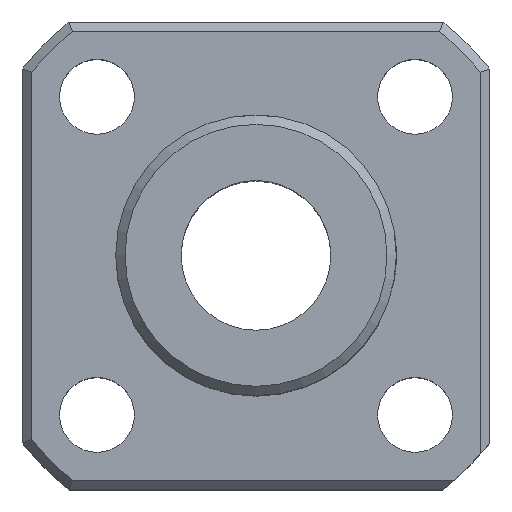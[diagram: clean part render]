
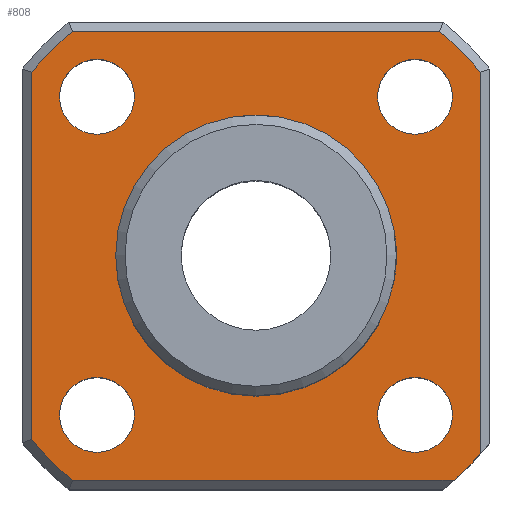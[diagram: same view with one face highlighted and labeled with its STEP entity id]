
A CAD part, top view. The second image highlights one B-rep face of the part: STEP entity #808.
In plain terms, the highlighted planar face has unit normal (0, 0, 1).
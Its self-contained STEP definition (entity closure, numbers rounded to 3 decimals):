
#531=CARTESIAN_POINT('',(10.583,-12.,8.0));
#532=VERTEX_POINT('',#531);
#540=CARTESIAN_POINT('',(-9.811,-12.,8.0));
#541=VERTEX_POINT('',#540);
#542=CARTESIAN_POINT('',(10.583,-12.,8.0));
#543=DIRECTION('',(-1.0,0.0,0.0));
#544=VECTOR('',#543,20.394);
#545=LINE('',#542,#544);
#546=EDGE_CURVE('',#532,#541,#545,.T.);
#571=CARTESIAN_POINT('',(-12.,-9.811,8.0));
#572=VERTEX_POINT('',#571);
#573=CARTESIAN_POINT('',(0.0,0.0,8.0));
#574=DIRECTION('',(0.0,0.0,-1.0));
#575=DIRECTION('',(-1.0,0.0,0.0));
#576=AXIS2_PLACEMENT_3D('',#573,#574,#575);
#577=CIRCLE('',#576,15.5);
#578=EDGE_CURVE('',#541,#572,#577,.T.);
#603=CARTESIAN_POINT('',(-12.,9.811,8.0));
#604=VERTEX_POINT('',#603);
#605=CARTESIAN_POINT('',(-12.,-9.811,8.0));
#606=DIRECTION('',(0.0,1.0,0.0));
#607=VECTOR('',#606,19.621);
#608=LINE('',#605,#607);
#609=EDGE_CURVE('',#572,#604,#608,.T.);
#628=CARTESIAN_POINT('',(-9.811,12.,8.0));
#629=VERTEX_POINT('',#628);
#630=CARTESIAN_POINT('',(0.0,0.0,8.0));
#631=DIRECTION('',(0.0,0.0,-1.0));
#632=DIRECTION('',(-1.0,0.0,0.0));
#633=AXIS2_PLACEMENT_3D('',#630,#631,#632);
#634=CIRCLE('',#633,15.5);
#635=EDGE_CURVE('',#604,#629,#634,.T.);
#654=CARTESIAN_POINT('',(9.811,12.,8.0));
#655=VERTEX_POINT('',#654);
#656=CARTESIAN_POINT('',(-9.811,12.,8.0));
#657=DIRECTION('',(1.0,0.0,0.0));
#658=VECTOR('',#657,19.621);
#659=LINE('',#656,#658);
#660=EDGE_CURVE('',#629,#655,#659,.T.);
#679=CARTESIAN_POINT('',(12.,9.811,8.0));
#680=VERTEX_POINT('',#679);
#681=CARTESIAN_POINT('',(0.0,0.0,8.0));
#682=DIRECTION('',(0.0,0.0,-1.0));
#683=DIRECTION('',(1.0,0.0,0.0));
#684=AXIS2_PLACEMENT_3D('',#681,#682,#683);
#685=CIRCLE('',#684,15.5);
#686=EDGE_CURVE('',#655,#680,#685,.T.);
#705=CARTESIAN_POINT('',(12.,-10.583,8.0));
#706=VERTEX_POINT('',#705);
#723=CARTESIAN_POINT('',(12.,9.811,8.0));
#724=DIRECTION('',(0.0,-1.0,0.0));
#725=VECTOR('',#724,20.394);
#726=LINE('',#723,#725);
#727=EDGE_CURVE('',#680,#706,#726,.T.);
#732=CARTESIAN_POINT('',(0.,0.,8.0));
#733=DIRECTION('',(0.0,0.0,1.0));
#734=DIRECTION('',(1.0,0.0,0.0));
#735=AXIS2_PLACEMENT_3D('',#732,#733,#734);
#736=PLANE('',#735);
#737=ORIENTED_EDGE('',*,*,#727,.F.);
#738=ORIENTED_EDGE('',*,*,#686,.F.);
#739=ORIENTED_EDGE('',*,*,#660,.F.);
#740=ORIENTED_EDGE('',*,*,#635,.F.);
#741=ORIENTED_EDGE('',*,*,#609,.F.);
#742=ORIENTED_EDGE('',*,*,#578,.F.);
#743=ORIENTED_EDGE('',*,*,#546,.F.);
#744=CARTESIAN_POINT('',(0.0,0.0,8.0));
#745=DIRECTION('',(0.0,0.0,-1.0));
#746=DIRECTION('',(1.0,0.0,0.0));
#747=AXIS2_PLACEMENT_3D('',#744,#745,#746);
#748=CIRCLE('',#747,16.0);
#749=EDGE_CURVE('',#706,#532,#748,.T.);
#750=ORIENTED_EDGE('',*,*,#749,.F.);
#751=EDGE_LOOP('',(#737,#738,#739,#740,#741,#742,#743,#750));
#752=FACE_OUTER_BOUND('',#751,.T.);
#753=CARTESIAN_POINT('',(7.5,0.,8.0));
#754=VERTEX_POINT('',#753);
#755=CARTESIAN_POINT('',(0.0,0.0,8.0));
#756=DIRECTION('',(0.0,0.0,-1.0));
#757=DIRECTION('',(-1.0,0.0,0.0));
#758=AXIS2_PLACEMENT_3D('',#755,#756,#757);
#759=CIRCLE('',#758,7.5);
#760=EDGE_CURVE('',#754,#754,#759,.T.);
#761=ORIENTED_EDGE('',*,*,#760,.T.);
#762=EDGE_LOOP('',(#761));
#763=FACE_BOUND('',#762,.T.);
#764=CARTESIAN_POINT('',(-10.5,8.5,8.));
#765=VERTEX_POINT('',#764);
#766=CARTESIAN_POINT('',(-8.5,8.5,8.));
#767=DIRECTION('',(0.0,0.0,-1.0));
#768=DIRECTION('',(1.0,0.0,0.0));
#769=AXIS2_PLACEMENT_3D('',#766,#767,#768);
#770=CIRCLE('',#769,2.0);
#771=EDGE_CURVE('',#765,#765,#770,.T.);
#772=ORIENTED_EDGE('',*,*,#771,.T.);
#773=EDGE_LOOP('',(#772));
#774=FACE_BOUND('',#773,.T.);
#775=CARTESIAN_POINT('',(6.5,8.5,8.));
#776=VERTEX_POINT('',#775);
#777=CARTESIAN_POINT('',(8.5,8.5,8.));
#778=DIRECTION('',(0.0,0.0,-1.0));
#779=DIRECTION('',(1.0,0.0,0.0));
#780=AXIS2_PLACEMENT_3D('',#777,#778,#779);
#781=CIRCLE('',#780,2.0);
#782=EDGE_CURVE('',#776,#776,#781,.T.);
#783=ORIENTED_EDGE('',*,*,#782,.T.);
#784=EDGE_LOOP('',(#783));
#785=FACE_BOUND('',#784,.T.);
#786=CARTESIAN_POINT('',(-10.5,-8.5,8.));
#787=VERTEX_POINT('',#786);
#788=CARTESIAN_POINT('',(-8.5,-8.5,8.));
#789=DIRECTION('',(0.0,0.0,-1.0));
#790=DIRECTION('',(1.0,0.0,0.0));
#791=AXIS2_PLACEMENT_3D('',#788,#789,#790);
#792=CIRCLE('',#791,2.0);
#793=EDGE_CURVE('',#787,#787,#792,.T.);
#794=ORIENTED_EDGE('',*,*,#793,.T.);
#795=EDGE_LOOP('',(#794));
#796=FACE_BOUND('',#795,.T.);
#797=CARTESIAN_POINT('',(6.5,-8.5,8.));
#798=VERTEX_POINT('',#797);
#799=CARTESIAN_POINT('',(8.5,-8.5,8.));
#800=DIRECTION('',(0.0,0.0,-1.0));
#801=DIRECTION('',(1.0,0.0,0.0));
#802=AXIS2_PLACEMENT_3D('',#799,#800,#801);
#803=CIRCLE('',#802,2.0);
#804=EDGE_CURVE('',#798,#798,#803,.T.);
#805=ORIENTED_EDGE('',*,*,#804,.T.);
#806=EDGE_LOOP('',(#805));
#807=FACE_BOUND('',#806,.T.);
#808=ADVANCED_FACE('',(#752,#763,#774,#785,#796,#807),#736,.T.);
